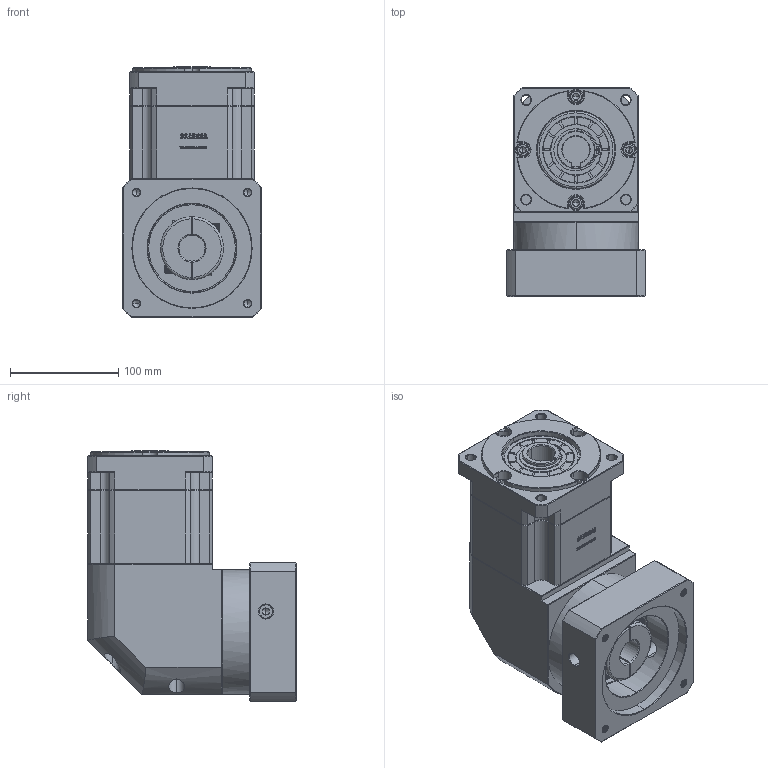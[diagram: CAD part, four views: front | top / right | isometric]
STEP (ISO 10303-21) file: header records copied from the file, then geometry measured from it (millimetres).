
FILE_DESCRIPTION (( 'STEP AP214' ), '1' );
FILE_NAME ('ZBR115A-K25-L2-24-110-145-M8.step', '2023-03-03T05:07:38', ( '' ), ( 'Microsoft' ), 'SwSTEP 2.0', 'SolidWorks 2016', '' );
FILE_SCHEMA (( 'AUTOMOTIVE_DESIGN' ));
Length unit declared in the file: millimetre
Products named in the file (1): ZBR115A-K25-L2-24-110-145-M8
Bounding box: 128 x 192.4 x 231.5 mm (x, y, z)
Volume: 3324355.7 mm3; surface area: 264200.5 mm2
Topology: 6 solids, 6 shells, 2926 faces, 7776 edges, 4996 vertices
Faces by surface type: plane 1552, bspline 597, cylinder 406, cone 363, torus 8
Entity records: 156413 total; most frequent: CARTESIAN_POINT 56123, ORIENTED_EDGE 15496, DIRECTION 11767, EDGE_CURVE 7748, LINE 5255, VECTOR 5255, VERTEX_POINT 4996, AXIS2_PLACEMENT_3D 3256
